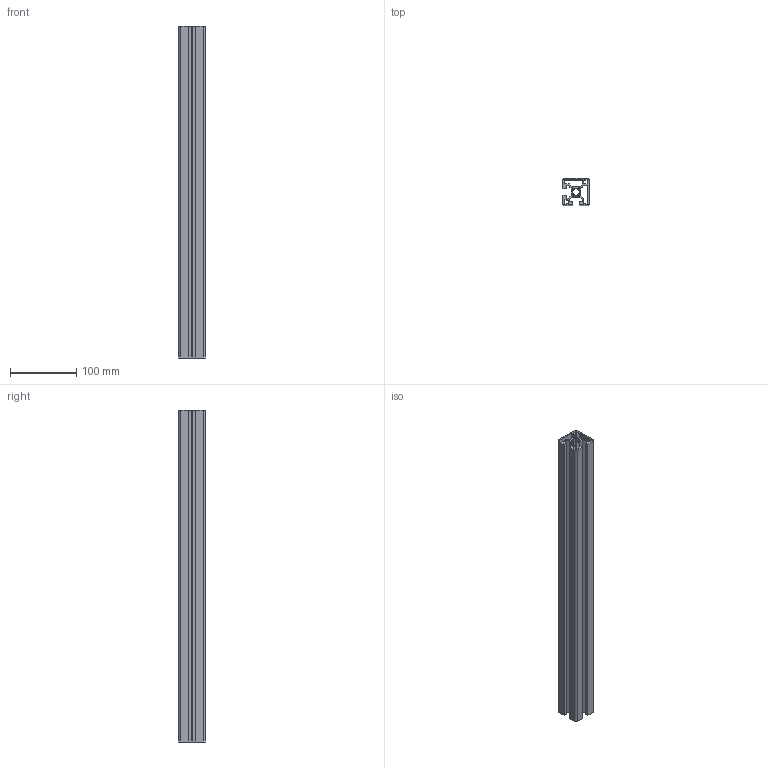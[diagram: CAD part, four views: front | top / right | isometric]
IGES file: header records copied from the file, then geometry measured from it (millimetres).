
Start section: SolidWorks IGES file using analytic representation for surfaces
Global section: file name: C:\Documents and Settings\Administrator\デスクトップ\指定保存後3回目\SolidWorks\SF\SF40・45\Frame\SFF-F04.IGS,41HSolidWorks; native system: 2006 by SolidWorks Corporation; preprocessor: SolidWorks 2006 by SolidWorks Corporation; author: Administrator; date: 061213.113721; units: millimetre
Bounding box: 40 x 40 x 500 mm (x, y, z)
Surface area: 236842.8 mm2 (no closed solid volume)
Topology: 0 solids, 0 shells, 108 faces, 1492 edges, 1810 vertices
Faces by surface type: revolution 54, bspline 54
